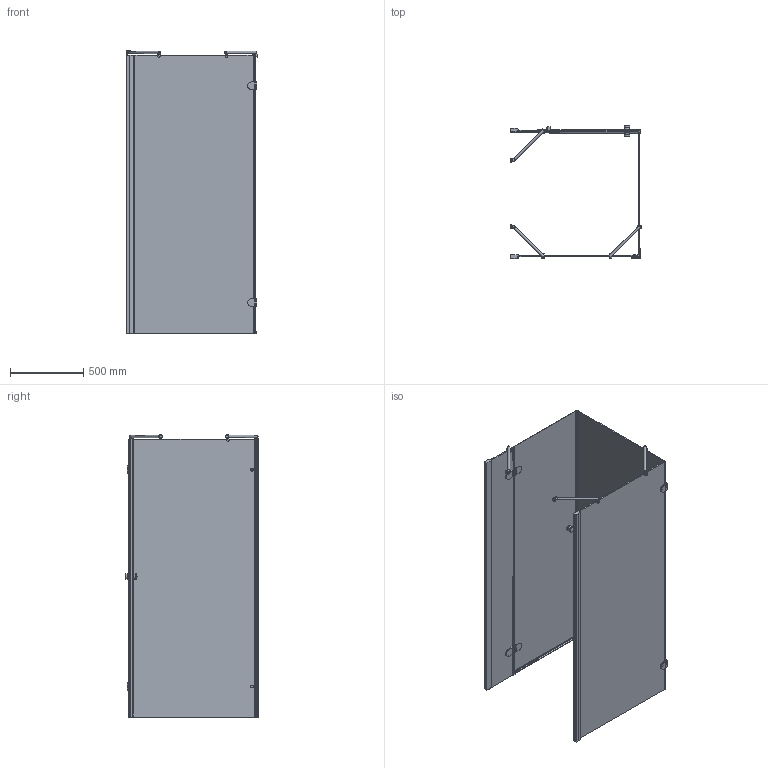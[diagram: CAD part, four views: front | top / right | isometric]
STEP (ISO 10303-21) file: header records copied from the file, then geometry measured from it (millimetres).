
FILE_DESCRIPTION(/* description */ (''),/* implementation_level */ '2;1');
FILE_NAME(/* name */ 'E:\Работа\Сергей\Душевые кабинки\! Работа\!!!!!!!!!!!!!!!\LUX SQUARE GK-104CP\LUX SQUARE GK-104CP правая модель\LUX SQUARE GK-104CP ПРАВАЯ-3D.stp',/* time_stamp */ '2018-02-27T17:39:14+03:00',/* author */ ('PC'),/* organization */ (''),/* preprocessor_version */ 'ST-DEVELOPER v15.2',/* originating_system */ 'Autodesk Inventor 2014',/* authorisation */ '');
FILE_SCHEMA (('AUTOMOTIVE_DESIGN { 1 0 10303 214 3 1 1 }'));
Length unit declared in the file: millimetre
Products named in the file (1): LUX SQUARE GK-104CP ПРАВАЯ-3
D
Bounding box: 893.14 x 910.8 x 1931.5 mm (x, y, z)
Volume: 41085355.3 mm3; surface area: 10432792.1 mm2
Topology: 5 solids, 5 shells, 649 faces, 1649 edges, 1033 vertices
Faces by surface type: plane 452, cylinder 158, torus 15, sphere 12, bspline 8, cone 4
Full cylindrical faces by diameter (mm): 11 x4, 12 x4, 15 x3, 18 x4, 20 x6, 26 x2, 38 x4
Entity records: 20144 total; most frequent: CARTESIAN_POINT 4160, DIRECTION 3134, ORIENTED_EDGE 3124, EDGE_CURVE 1562, LINE 1134, VECTOR 1134, AXIS2_PLACEMENT_3D 1000, VERTEX_POINT 993
